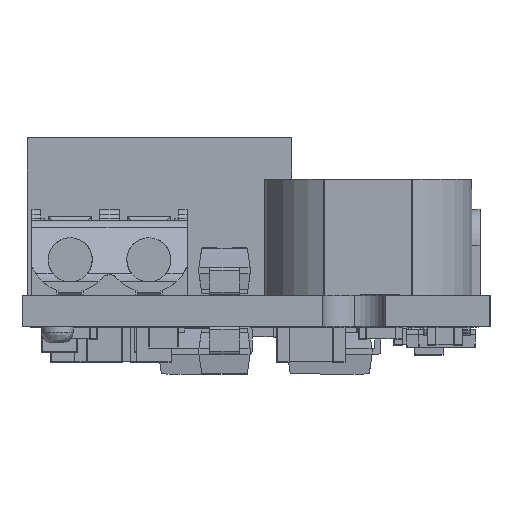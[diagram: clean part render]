
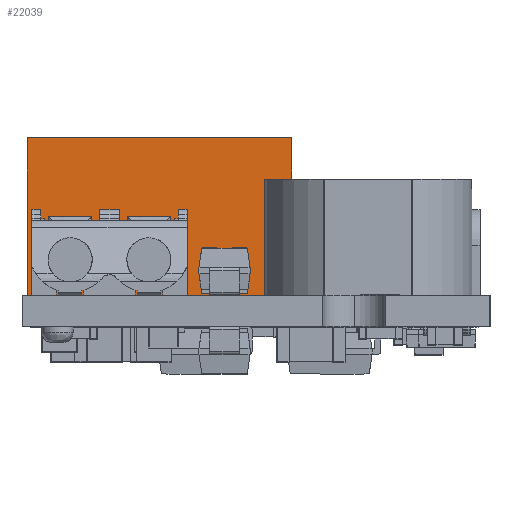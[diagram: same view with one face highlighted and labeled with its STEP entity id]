
A CAD part, left-side view. The second image highlights one B-rep face of the part: STEP entity #22039.
In plain terms, the highlighted free-form (B-spline) face has degree [3, 3] with [4, 4] control points.
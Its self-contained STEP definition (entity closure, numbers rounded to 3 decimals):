
#2583=DIRECTION('',(0.,1.,0.));
#2584=VECTOR('',#2583,13.45);
#2585=CARTESIAN_POINT('',(15.275,3.175,1.6));
#2586=LINE('',#2585,#2584);
#2587=DIRECTION('',(0.,0.,1.));
#2588=VECTOR('',#2587,8.002);
#2589=CARTESIAN_POINT('',(15.275,16.625,1.6));
#2590=LINE('',#2589,#2588);
#2591=DIRECTION('',(0.,0.,-1.));
#2592=VECTOR('',#2591,8.002);
#2593=CARTESIAN_POINT('',(15.275,3.175,9.602));
#2594=LINE('',#2593,#2592);
#2619=DIRECTION('',(0.,1.,0.));
#2620=VECTOR('',#2619,13.45);
#2621=CARTESIAN_POINT('',(15.275,3.175,9.602));
#2622=LINE('',#2621,#2620);
#14590=CARTESIAN_POINT('',(15.275,16.625,9.602));
#14592=VERTEX_POINT('',#14590);
#14596=CARTESIAN_POINT('',(15.275,3.175,9.602));
#14597=VERTEX_POINT('',#14596);
#18090=CARTESIAN_POINT('',(15.275,16.625,1.6));
#18092=VERTEX_POINT('',#18090);
#18103=CARTESIAN_POINT('',(15.275,3.175,1.6));
#18105=VERTEX_POINT('',#18103);
#22014=CARTESIAN_POINT('',(15.275,16.894,9.762));
#22015=CARTESIAN_POINT('',(15.275,16.894,6.988));
#22016=CARTESIAN_POINT('',(15.275,16.894,4.214));
#22017=CARTESIAN_POINT('',(15.275,16.894,1.44));
#22018=CARTESIAN_POINT('',(15.275,12.231,9.762));
#22019=CARTESIAN_POINT('',(15.275,12.231,6.988));
#22020=CARTESIAN_POINT('',(15.275,12.231,4.214));
#22021=CARTESIAN_POINT('',(15.275,12.231,1.44));
#22022=CARTESIAN_POINT('',(15.275,7.569,9.762));
#22023=CARTESIAN_POINT('',(15.275,7.569,6.988));
#22024=CARTESIAN_POINT('',(15.275,7.569,4.214));
#22025=CARTESIAN_POINT('',(15.275,7.569,1.44));
#22026=CARTESIAN_POINT('',(15.275,2.906,9.762));
#22027=CARTESIAN_POINT('',(15.275,2.906,6.988));
#22028=CARTESIAN_POINT('',(15.275,2.906,4.214));
#22029=CARTESIAN_POINT('',(15.275,2.906,1.44));
#22030=B_SPLINE_SURFACE_WITH_KNOTS('',3,3,((#22014,#22015,#22016,#22017),
(#22018,#22019,#22020,#22021),(#22022,#22023,#22024,#22025),(#22026,#22027,
#22028,#22029)),.UNSPECIFIED.,.F.,.F.,.F.,(4,4),(4,4),(-0.269,13.719),(
-8.16,0.162),.UNSPECIFIED.);
#22031=ORIENTED_EDGE('',*,*,#19101,.T.);
#22033=ORIENTED_EDGE('',*,*,#22032,.T.);
#22035=ORIENTED_EDGE('',*,*,#22034,.F.);
#22036=ORIENTED_EDGE('',*,*,#21998,.T.);
#22037=EDGE_LOOP('',(#22031,#22033,#22035,#22036));
#22038=FACE_OUTER_BOUND('',#22037,.F.);
#19101=EDGE_CURVE('',#18105,#18092,#2586,.T.);
#21998=EDGE_CURVE('',#14597,#18105,#2594,.T.);
#22032=EDGE_CURVE('',#18092,#14592,#2590,.T.);
#22034=EDGE_CURVE('',#14597,#14592,#2622,.T.);
#22039=ADVANCED_FACE('',(#22038),#22030,.F.);
